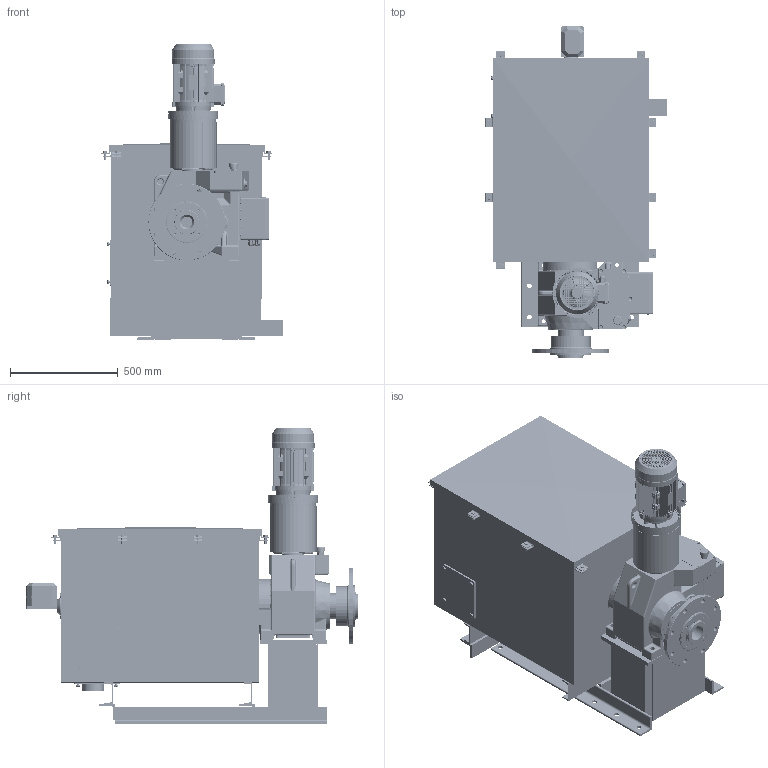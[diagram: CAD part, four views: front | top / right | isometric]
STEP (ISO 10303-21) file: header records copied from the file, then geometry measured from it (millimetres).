
FILE_DESCRIPTION(/* description */ (''),/* implementation_level */ '2;1');
FILE_NAME(/* name */ 'K:\NEMANJA\CABLE REEL\CABLE REEL DA\0700-6\07006002 DAPR-MCGBSR\STEP\76598.stp',/* time_stamp */ '2017-03-16T10:30:31+01:00',/* author */ ('vlakrc01'),/* organization */ ('Hillmar Industries Ltd.'),/* preprocessor_version */ 'ST-DEVELOPER v16.1',/* originating_system */ 'Autodesk Inventor 2016',/* authorisation */ '');
FILE_SCHEMA (('AUTOMOTIVE_DESIGN { 1 0 10303 214 3 1 1 }'));
Products named in the file (1): 76598
Bounding box: 841.25 x 1540.14 x 1369.55 mm (x, y, z)
Volume: 41390625.7 mm3; surface area: 13768268.1 mm2
Topology: 28 solids, 28 shells, 6526 faces, 17280 edges, 10999 vertices
Faces by surface type: plane 3872, cylinder 1378, cone 527, bspline 483, torus 194, sphere 72
Full cylindrical faces by diameter (mm): 3 x4, 7 x4, 8 x12, 8.376 x5, 8.5 x5, 9 x19, 9.188 x8, 10 x29, 10.106 x15, 10.38 x6, 11 x20, 11.053 x8, 11.113 x2, 12 x17, 12.5 x6, 13 x4, 13.2 x6, 14 x22, 14.3 x8, 15 x10, 15.4 x8, 17.2 x8, 17.294 x4, 17.475 x1, 17.75 x1, 18 x2, 18.38 x4, 18.653 x1, 20 x4, 20.5 x4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
Entity records: 215972 total; most frequent: CARTESIAN_POINT 54195, ORIENTED_EDGE 32712, DIRECTION 30485, EDGE_CURVE 16336, VERTEX_POINT 10712, AXIS2_PLACEMENT_3D 10353, LINE 9779, VECTOR 9779
